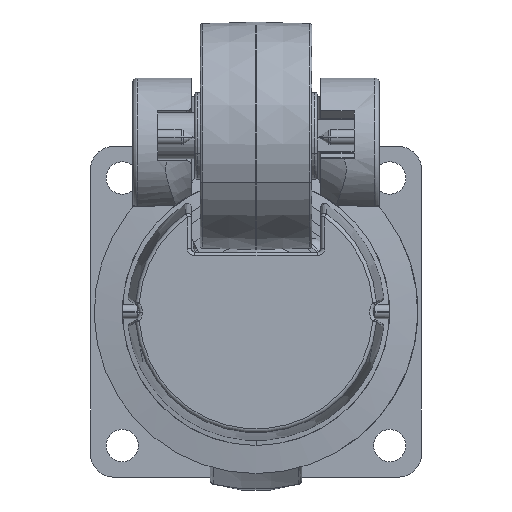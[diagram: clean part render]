
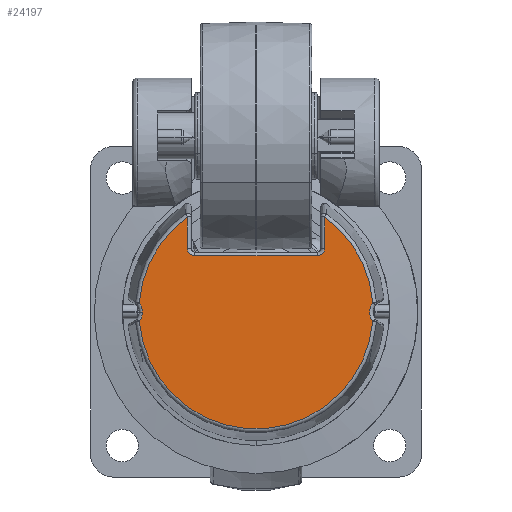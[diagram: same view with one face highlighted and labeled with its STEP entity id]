
A CAD part, front view. The second image highlights one B-rep face of the part: STEP entity #24197.
In plain terms, the highlighted planar face has unit normal (0, -1, 0).
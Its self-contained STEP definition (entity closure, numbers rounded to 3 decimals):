
#135 = CIRCLE ( 'NONE', #6577, 3.3 ) ;
#237 = CARTESIAN_POINT ( 'NONE',  ( -0.1, 0., 24.6 ) ) ;
#1001 = LINE ( 'NONE', #14418, #22652 ) ;
#1008 = AXIS2_PLACEMENT_3D ( 'NONE', #32992, #17588, #14409 ) ;
#1406 = CARTESIAN_POINT ( 'NONE',  ( 13.7, 0., -14.85 ) ) ;
#2426 = VERTEX_POINT ( 'NONE', #1406 ) ;
#3018 = DIRECTION ( 'NONE',  ( 0., 0., -1. ) ) ;
#3284 = VERTEX_POINT ( 'NONE', #4994 ) ;
#3656 = ORIENTED_EDGE ( 'NONE', *, *, #5362, .T. ) ;
#3705 = VECTOR ( 'NONE', #20660, 1000. ) ;
#3735 = VERTEX_POINT ( 'NONE', #32880 ) ;
#3953 = VERTEX_POINT ( 'NONE', #24221 ) ;
#3986 = EDGE_CURVE ( 'NONE', #3953, #6624, #32553, .T. ) ;
#4209 = ORIENTED_EDGE ( 'NONE', *, *, #30306, .T. ) ;
#4902 = ORIENTED_EDGE ( 'NONE', *, *, #14553, .T. ) ;
#4983 = CARTESIAN_POINT ( 'NONE',  ( 12.1, 0., 13.25 ) ) ;
#4994 = CARTESIAN_POINT ( 'NONE',  ( 12.1, 0., -13.25 ) ) ;
#5362 = EDGE_CURVE ( 'NONE', #19607, #19467, #135, .T. ) ;
#5445 = CARTESIAN_POINT ( 'NONE',  ( -0.1, 0., 27.9 ) ) ;
#5495 = LINE ( 'NONE', #20474, #3705 ) ;
#6049 = CARTESIAN_POINT ( 'NONE',  ( -2.137, 0., 25.303 ) ) ;
#6222 = DIRECTION ( 'NONE',  ( 1., 0., 0. ) ) ;
#6577 = AXIS2_PLACEMENT_3D ( 'NONE', #5445, #20767, #17885 ) ;
#6624 = VERTEX_POINT ( 'NONE', #4983 ) ;
#6899 = EDGE_CURVE ( 'NONE', #22514, #28996, #26616, .T. ) ;
#7583 = ORIENTED_EDGE ( 'NONE', *, *, #6899, .T. ) ;
#7595 = CIRCLE ( 'NONE', #10285, 3.3 ) ;
#8659 = CARTESIAN_POINT ( 'NONE',  ( 20.599, 0., 14.85 ) ) ;
#8914 = DIRECTION ( 'NONE',  ( 0., -1., 0. ) ) ;
#9544 = EDGE_LOOP ( 'NONE', ( #24948, #12112, #21254, #29962, #30978, #24132, #4209, #3656, #4902, #23089, #7583 ) ) ;
#9970 = DIRECTION ( 'NONE',  ( 0., 0., -1. ) ) ;
#10130 = EDGE_CURVE ( 'NONE', #3953, #11922, #1001, .T. ) ;
#10285 = AXIS2_PLACEMENT_3D ( 'NONE', #20224, #12468, #9970 ) ;
#10585 = DIRECTION ( 'NONE',  ( 0., -1., 0. ) ) ;
#10640 = CARTESIAN_POINT ( 'NONE',  ( 0., 0., 0. ) ) ;
#11922 = VERTEX_POINT ( 'NONE', #8659 ) ;
#12112 = ORIENTED_EDGE ( 'NONE', *, *, #27088, .T. ) ;
#12468 = DIRECTION ( 'NONE',  ( 0., 1., 0. ) ) ;
#12906 = EDGE_CURVE ( 'NONE', #26431, #22514, #15086, .T. ) ;
#13090 = CIRCLE ( 'NONE', #31982, 1.6 ) ;
#14409 = DIRECTION ( 'NONE',  ( 0., 0., -1. ) ) ;
#14418 = CARTESIAN_POINT ( 'NONE',  ( 0., 0., 14.85 ) ) ;
#14477 = CARTESIAN_POINT ( 'NONE',  ( 1.955, 0., 25.318 ) ) ;
#14553 = EDGE_CURVE ( 'NONE', #19467, #26431, #7595, .T. ) ;
#15086 = CIRCLE ( 'NONE', #20487, 25.393 ) ;
#15486 = CIRCLE ( 'NONE', #1008, 25.393 ) ;
#16589 = DIRECTION ( 'NONE',  ( 0., 0., -1. ) ) ;
#16807 = CARTESIAN_POINT ( 'NONE',  ( -2.137, 0., -25.303 ) ) ;
#16936 = CARTESIAN_POINT ( 'NONE',  ( 13.7, 0., 13.25 ) ) ;
#17370 = CARTESIAN_POINT ( 'NONE',  ( 1.955, 0., -25.318 ) ) ;
#17588 = DIRECTION ( 'NONE',  ( 0., -1., 0. ) ) ;
#17885 = DIRECTION ( 'NONE',  ( 0., 0., -1. ) ) ;
#17939 = AXIS2_PLACEMENT_3D ( 'NONE', #10640, #20895, #31193 ) ;
#17970 = AXIS2_PLACEMENT_3D ( 'NONE', #16936, #8914, #16589 ) ;
#19467 = VERTEX_POINT ( 'NONE', #237 ) ;
#19607 = VERTEX_POINT ( 'NONE', #14477 ) ;
#20224 = CARTESIAN_POINT ( 'NONE',  ( -0.1, 0., 27.9 ) ) ;
#20474 = CARTESIAN_POINT ( 'NONE',  ( 12.1, 0., 0. ) ) ;
#20487 = AXIS2_PLACEMENT_3D ( 'NONE', #21240, #24275, #32200 ) ;
#20592 = CARTESIAN_POINT ( 'NONE',  ( -0.1, 0., -27.9 ) ) ;
#20660 = DIRECTION ( 'NONE',  ( 0., 0., 1. ) ) ;
#20767 = DIRECTION ( 'NONE',  ( 0., 1., 0. ) ) ;
#20895 = DIRECTION ( 'NONE',  ( 0., -1., 0. ) ) ;
#21128 = CARTESIAN_POINT ( 'NONE',  ( 13.7, 0., -13.25 ) ) ;
#21225 = AXIS2_PLACEMENT_3D ( 'NONE', #20592, #30894, #23286 ) ;
#21240 = CARTESIAN_POINT ( 'NONE',  ( 0., 0., 0. ) ) ;
#21254 = ORIENTED_EDGE ( 'NONE', *, *, #27903, .F. ) ;
#22514 = VERTEX_POINT ( 'NONE', #16807 ) ;
#22652 = VECTOR ( 'NONE', #6222, 1000. ) ;
#23047 = CARTESIAN_POINT ( 'NONE',  ( 0., 0., 0. ) ) ;
#23089 = ORIENTED_EDGE ( 'NONE', *, *, #12906, .T. ) ;
#23286 = DIRECTION ( 'NONE',  ( 0., 0., -1. ) ) ;
#23379 = PLANE ( 'NONE',  #32420 ) ;
#24132 = ORIENTED_EDGE ( 'NONE', *, *, #10130, .T. ) ;
#24197 = ADVANCED_FACE ( 'NONE', ( #25583 ), #23379, .T. ) ;
#24221 = CARTESIAN_POINT ( 'NONE',  ( 13.7, 0., 14.85 ) ) ;
#24275 = DIRECTION ( 'NONE',  ( 0., -1., 0. ) ) ;
#24948 = ORIENTED_EDGE ( 'NONE', *, *, #28323, .T. ) ;
#25583 = FACE_OUTER_BOUND ( 'NONE', #9544, .T. ) ;
#26339 = DIRECTION ( 'NONE',  ( 0., 0., -1. ) ) ;
#26431 = VERTEX_POINT ( 'NONE', #6049 ) ;
#26511 = DIRECTION ( 'NONE',  ( -1., 0., 0. ) ) ;
#26616 = CIRCLE ( 'NONE', #21225, 3.3 ) ;
#27088 = EDGE_CURVE ( 'NONE', #3735, #2426, #31739, .T. ) ;
#27903 = EDGE_CURVE ( 'NONE', #3284, #2426, #13090, .T. ) ;
#28192 = CIRCLE ( 'NONE', #17939, 25.393 ) ;
#28323 = EDGE_CURVE ( 'NONE', #28996, #3735, #28192, .T. ) ;
#28523 = CARTESIAN_POINT ( 'NONE',  ( 0., 0., -14.85 ) ) ;
#28531 = DIRECTION ( 'NONE',  ( 0., -1., 0. ) ) ;
#28996 = VERTEX_POINT ( 'NONE', #17370 ) ;
#29962 = ORIENTED_EDGE ( 'NONE', *, *, #30359, .T. ) ;
#30306 = EDGE_CURVE ( 'NONE', #11922, #19607, #15486, .T. ) ;
#30359 = EDGE_CURVE ( 'NONE', #3284, #6624, #5495, .T. ) ;
#30894 = DIRECTION ( 'NONE',  ( 0., 1., 0. ) ) ;
#30978 = ORIENTED_EDGE ( 'NONE', *, *, #3986, .F. ) ;
#31193 = DIRECTION ( 'NONE',  ( 0., 0., -1. ) ) ;
#31739 = LINE ( 'NONE', #28523, #31933 ) ;
#31933 = VECTOR ( 'NONE', #26511, 1000. ) ;
#31982 = AXIS2_PLACEMENT_3D ( 'NONE', #21128, #28531, #26339 ) ;
#32200 = DIRECTION ( 'NONE',  ( 0., 0., -1. ) ) ;
#32420 = AXIS2_PLACEMENT_3D ( 'NONE', #23047, #10585, #3018 ) ;
#32553 = CIRCLE ( 'NONE', #17970, 1.6 ) ;
#32880 = CARTESIAN_POINT ( 'NONE',  ( 20.599, 0., -14.85 ) ) ;
#32992 = CARTESIAN_POINT ( 'NONE',  ( 0., 0., 0. ) ) ;
